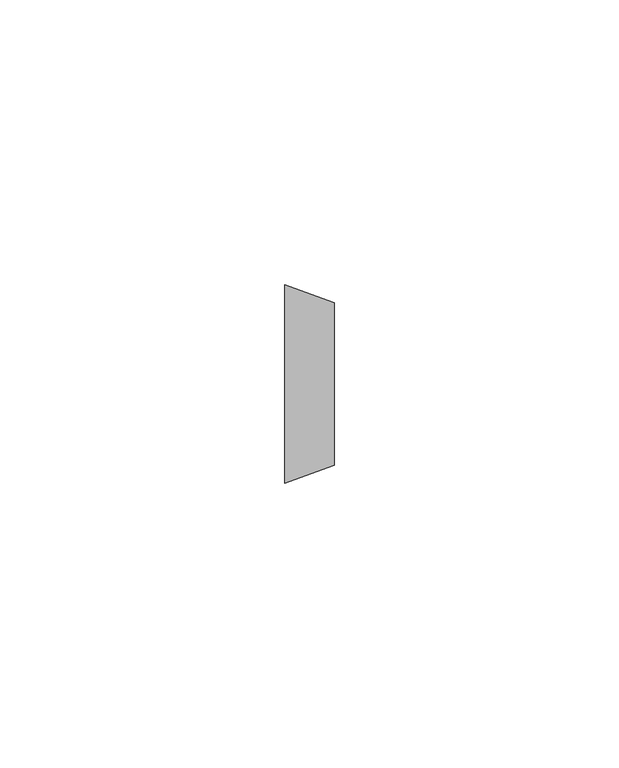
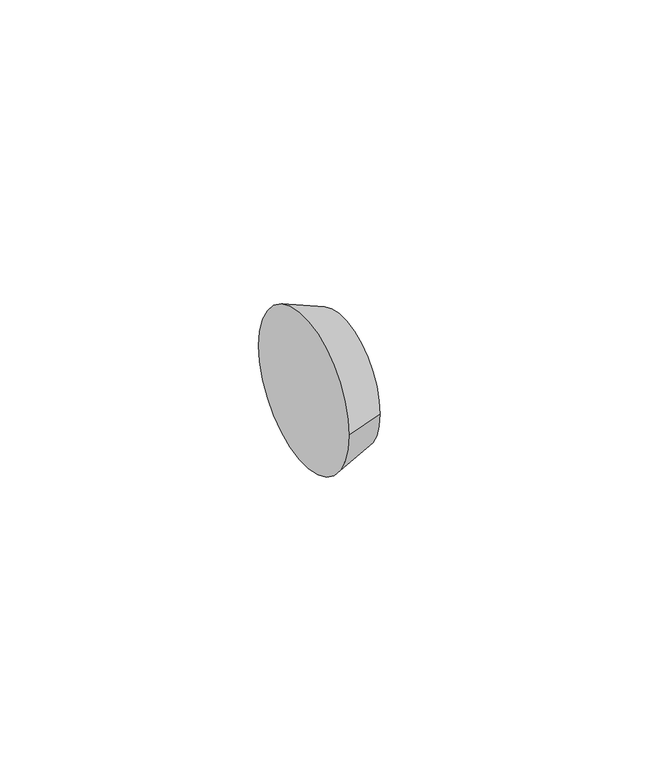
"""IFC4 building model written with IfcOpenShell, lengths in millimetres: pipe fitting geometry, M_Transición - Genérica : Estándar."""

import ifcopenshell
import ifcopenshell.guid

model = None  # the IFC model being written
_history = None  # IfcOwnerHistory: only IFC2X3 demands one
_inside = {}  # id of a spatial element -> (the spatial element, [elements in it])
_under = {}  # id of a project, library or spatial element -> (it, [spatial elements below it])
_declared = {}  # id of a project -> (the project, [libraries it declares])
_typed = {}  # id of a type object -> (the type object, [elements of that type])
_made_of = {}  # id of a material, layer set ... -> (it, [elements and type objects made of it])


def new_model(schema):
    """Start an empty IFC model of exactly this schema.

    Asked for "IFC4X3", IfcOpenShell would pick the latest addendum, in which some entities
    have other attributes; the version numbers below select the first issue.
    IFC2X3 requires an IfcOwnerHistory on every rooted entity: one is made here for all.
    """
    global model, _history
    if schema == "IFC4X3":
        model = ifcopenshell.file(schema_version=(4, 3, 0, 0))
    else:
        model = ifcopenshell.file(schema=schema)
    _inside.clear()
    _under.clear()
    _declared.clear()
    _typed.clear()
    _made_of.clear()
    _history = None
    if model.schema == "IFC2X3":
        org = make("IfcOrganization", Name="unknown")
        user = make(
            "IfcPersonAndOrganization",
            ThePerson=make("IfcPerson", FamilyName="unknown"),
            TheOrganization=org,
        )
        app = make(
            "IfcApplication",
            ApplicationDeveloper=org,
            Version="unknown",
            ApplicationFullName="unknown",
            ApplicationIdentifier="unknown",
        )
        _history = make(
            "IfcOwnerHistory",
            OwningUser=user,
            OwningApplication=app,
            ChangeAction="ADDED",
            CreationDate=0,
        )
    return model


def make(cls, **values):
    """One entity of the class cls with the attributes given. An attribute that is None is left unset."""
    return model.create_entity(
        cls, **{name: value for name, value in values.items() if value is not None}
    )


def rooted(cls, **values):
    """An entity with a GlobalId (a new one), such as an element, a storey or a relation."""
    return make(cls, GlobalId=ifcopenshell.guid.new(), OwnerHistory=_history, **values)


def si_unit(unit_type, name, prefix=None):
    """IfcSIUnit, for example si_unit("LENGTHUNIT", "METRE", prefix="MILLI")."""
    return make("IfcSIUnit", UnitType=unit_type, Prefix=prefix, Name=name)


def assignment(units):
    """IfcUnitAssignment: the units of a project."""
    return None if units is None else make("IfcUnitAssignment", Units=units)


def point(xyz):
    """IfcCartesianPoint."""
    return None if xyz is None else make("IfcCartesianPoint", Coordinates=xyz)


def direction(xyz):
    """IfcDirection."""
    return None if xyz is None else make("IfcDirection", DirectionRatios=xyz)


def frame(location, z_axis=None, x_axis=None):
    """IfcAxis2Placement3D, a coordinate frame: its origin and axes. An axis left out is left unset."""
    return make(
        "IfcAxis2Placement3D",
        Location=point(location),
        Axis=direction(z_axis),
        RefDirection=direction(x_axis),
    )


def origin():
    """The frame at (0, 0, 0) with its axes left unset."""
    return frame((0.0, 0.0, 0.0))


def place(relative_to, where):
    """IfcLocalPlacement: puts the frame where relative to a parent placement (None: the world)."""
    return make(
        "IfcLocalPlacement", PlacementRelTo=relative_to, RelativePlacement=where
    )


def context(
    kind, dimensions, precision=None, world=None, true_north=None, identifier=None
):
    """IfcGeometricRepresentationContext, for example the 3D "Model" context."""
    return make(
        "IfcGeometricRepresentationContext",
        ContextIdentifier=identifier,
        ContextType=kind,
        CoordinateSpaceDimension=dimensions,
        Precision=precision,
        WorldCoordinateSystem=world,
        TrueNorth=true_north,
    )


def project(units=None, contexts=None):
    """IfcProject with its units and contexts."""
    return rooted(
        "IfcProject",
        Name="project",
        RepresentationContexts=contexts,
        UnitsInContext=assignment(units),
    )


def spatial(cls, under=None, at=None, **own):
    """A site, building, storey or space (cls), placed at a placement, below another one or the project."""
    s = rooted(cls, ObjectPlacement=at, **own)
    if under is not None:
        _under.setdefault(under.id(), (under, []))[1].append(s)
    return s


def polyline(points):
    """IfcPolyline through the points."""
    return make("IfcPolyline", Points=[point(p) for p in points])


def circle_curve(where, radius):
    """IfcCircle in the frame where."""
    return make("IfcCircle", Position=where, Radius=radius)


def shape(context_of_items, identifier, shape_type, items):
    """IfcShapeRepresentation: the items that make up one representation, for example the "Body"."""
    return make(
        "IfcShapeRepresentation",
        ContextOfItems=context_of_items,
        RepresentationIdentifier=identifier,
        RepresentationType=shape_type,
        Items=items,
    )


def source(mapping_origin, context_of_items, identifier, shape_type, items):
    """IfcRepresentationMap: a shape defined once, which mapped items show again and again."""
    return make(
        "IfcRepresentationMap",
        MappingOrigin=mapping_origin,
        MappedRepresentation=shape(context_of_items, identifier, shape_type, items),
    )


def transform(
    local_origin,
    x_axis=None,
    y_axis=None,
    z_axis=None,
    scale=None,
    scale2=None,
    scale3=None,
    uniform=True,
):
    """IfcCartesianTransformationOperator3D, or its non-uniform kind. x_axis, y_axis, z_axis: its Axis1, 2, 3."""
    if uniform:
        return make(
            "IfcCartesianTransformationOperator3D",
            Axis1=direction(x_axis),
            Axis2=direction(y_axis),
            LocalOrigin=point(local_origin),
            Scale=scale,
            Axis3=direction(z_axis),
        )
    return make(
        "IfcCartesianTransformationOperator3DnonUniform",
        Axis1=direction(x_axis),
        Axis2=direction(y_axis),
        LocalOrigin=point(local_origin),
        Scale=scale,
        Axis3=direction(z_axis),
        Scale2=scale2,
        Scale3=scale3,
    )


def mapped(mapping_source, mapping_target):
    """IfcMappedItem: shows the shape of a source again, moved by a transform."""
    return make(
        "IfcMappedItem", MappingSource=mapping_source, MappingTarget=mapping_target
    )


def made_of(thing, what):
    """Note that an element or type object is made of a material, layer set ...; save() writes the relation."""
    if what is not None:
        _made_of.setdefault(what.id(), (what, []))[1].append(thing)
    return thing


def element(
    cls,
    number,
    at=None,
    inside=None,
    cuts=None,
    type_object=None,
    material=None,
    context=None,
    identifier="Body",
    shape_type=None,
    held_by="IfcProductDefinitionShape",
    body=None,
    shapes=None,
    **own,
):
    """One element of the class cls, such as IfcWall. Its Tag is "e" and its number.

    at: its placement. inside: the storey or other place that contains it. cuts: it is an
    opening in that element (IfcRelVoidsElement). A single representation is given by context,
    identifier, shape_type and body (its items); several are given by shapes. held_by: the class
    of the entity that holds the representations. save() writes the other relations.
    """
    e = rooted(cls, Tag="e%d" % number, ObjectPlacement=at, **own)
    if body is not None:
        shapes = [shape(context, identifier, shape_type, body)]
    if shapes is not None:
        e.Representation = make(held_by, Representations=shapes)
    if inside is not None:
        _inside.setdefault(inside.id(), (inside, []))[1].append(e)
    if cuts is not None:
        rooted(
            "IfcRelVoidsElement", RelatingBuildingElement=cuts, RelatedOpeningElement=e
        )
    if type_object is not None:
        _typed.setdefault(type_object.id(), (type_object, []))[1].append(e)
    return made_of(e, material)


def aggregate(whole, parts):
    """IfcRelAggregates: a whole, such as a stair, and the parts it consists of."""
    return rooted("IfcRelAggregates", RelatingObject=whole, RelatedObjects=parts)


def save(model, path):
    """Write the relations noted so far, then the file.

    IfcRelAggregates (storeys below a building ...), IfcRelContainedInSpatialStructure (elements
    in a storey), IfcRelDefinesByType, IfcRelAssociatesMaterial and IfcRelDeclares: one each for
    every whole, place, type object, material and project.
    """
    for whole, parts in _under.values():
        aggregate(whole, parts)
    for where, things in _inside.values():
        rooted(
            "IfcRelContainedInSpatialStructure",
            RelatedElements=things,
            RelatingStructure=where,
        )
    for kind, things in _typed.values():
        rooted("IfcRelDefinesByType", RelatedObjects=things, RelatingType=kind)
    for what, things in _made_of.values():
        rooted("IfcRelAssociatesMaterial", RelatedObjects=things, RelatingMaterial=what)
    for by, libraries in _declared.values():
        rooted("IfcRelDeclares", RelatingContext=by, RelatedDefinitions=libraries)
    model.write(path)


def plane_surface(at):
    """IfcPlane: the flat surface through the origin of the frame at, square to its z axis."""
    return make("IfcPlane", Position=at)


def revolved_surface(curve, axis_point, axis_direction):
    """IfcSurfaceOfRevolution: the curve turned about the line through axis_point along axis_direction."""
    return make(
        "IfcSurfaceOfRevolution",
        SweptCurve=make("IfcArbitraryOpenProfileDef", ProfileType="CURVE", Curve=curve),
        AxisPosition=make("IfcAxis1Placement", Location=point(axis_point), Axis=direction(axis_direction)),
    )


def advanced_brep(points, edges, surfaces, faces):
    """IfcAdvancedBrep: a solid bounded by faces that lie on surfaces and meet in shared edges.

    An edge is (start, end): straight between two places in points (the first is 0);
    or (start, end, curve); or (start, end, curve, False) where it runs against its curve.
    A face is (place in surfaces, loops), or (place, loops, False) where it looks against
    its surface's normal. A loop lists edges by number (the first is 1), with a minus sign
    where the edge is run from its end to its start. The first loop is the outer one.
    """
    corners = [point(p) for p in points]
    vertices = [make("IfcVertexPoint", VertexGeometry=c) for c in corners]
    made = []
    for start, end, *more in edges:
        made.append(
            make(
                "IfcEdgeCurve",
                EdgeStart=vertices[start],
                EdgeEnd=vertices[end],
                EdgeGeometry=more[0] if more else make("IfcPolyline", Points=[corners[start], corners[end]]),
                SameSense=more[1] if len(more) > 1 else True,
            )
        )
    hull = []
    for where, loops, *sense in faces:
        bounds = []
        for j, loop in enumerate(loops):
            ring = [make("IfcOrientedEdge", EdgeElement=made[abs(k) - 1], Orientation=k > 0) for k in loop]
            bounds.append(
                make(
                    "IfcFaceOuterBound" if j == 0 else "IfcFaceBound",
                    Bound=make("IfcEdgeLoop", EdgeList=ring),
                    Orientation=True,
                )
            )
        hull.append(make("IfcAdvancedFace", Bounds=bounds, FaceSurface=surfaces[where], SameSense=sense[0] if sense else True))
    return make("IfcAdvancedBrep", Outer=make("IfcClosedShell", CfsFaces=hull))


def pipe_fitting_7ca1ba8e(model_context):
    return source(origin(), model_context, "Body", "AdvancedBrep", [
        advanced_brep(
        [(8.73125, -14.2875, 0.0), (8.73125, 14.2875, 0.0), (0.0, -17.4625, 0.0), (0.0, 17.4625, 0.0)],
        [
            (0, 1, circle_curve(frame((8.73125, 0.0, 0.0), z_axis=(1.0, 0.0, 0.0), x_axis=(0.0, -1.0, 0.0)), 14.2875)),
            (1, 0, circle_curve(frame((8.73125, 0.0, 0.0), z_axis=(1.0, 0.0, 0.0), x_axis=(0.0, 1.0, 0.0)), 14.2875)),
            (2, 3, circle_curve(frame((0.0, 0.0, 0.0), z_axis=(-1.0, 0.0, 0.0), x_axis=(0.0, 1.0, 0.0)), 17.4625)),
            (3, 2, circle_curve(frame((0.0, 0.0, 0.0), z_axis=(-1.0, 0.0, 0.0), x_axis=(0.0, -1.0, 0.0)), 17.4625)),
            (3, 1),
            (0, 2),
        ],
        [
            plane_surface(frame((8.73125, 0.0, 0.0), z_axis=(1.0, 0.0, 0.0), x_axis=(0.0, 0.0, -1.0))),
            plane_surface(frame((0.0, 0.0, 0.0), z_axis=(-1.0, 0.0, 0.0), x_axis=(0.0, 0.0, -1.0))),
            revolved_surface(polyline([(8.731249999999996, -14.2875, 0.0), (0.0, -17.4625, 0.0)]), (48.021875, 0.0, 0.0), (-1.0, 0.0, 0.0)),
            revolved_surface(polyline([(8.731249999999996, 14.2875, 0.0), (0.0, 17.4625, 0.0)]), (48.021875, 0.0, 0.0), (-1.0, 0.0, 0.0)),
        ],
        [
            (0, [[1, 2]]),
            (1, [[3, 4]]),
            (2, [[-4, 5, -1, 6]]),
            (3, [[-3, -6, -2, -5]]),
        ],
    ),
    ])


if __name__ == "__main__":
    model = new_model("IFC4")
    model_context = context("Model", 3, world=origin())
    ifc_project = project(units=[si_unit("LENGTHUNIT", "METRE", prefix="MILLI")], contexts=[model_context])
    site = spatial("IfcSite", under=ifc_project)
    building = spatial("IfcBuilding", under=site)
    placement = place(None, origin())
    pipe_fitting_shape = pipe_fitting_7ca1ba8e(model_context)
    element("IfcPipeFitting", 1, ObjectType="M_Transición - Genérica : Estándar", at=placement, inside=building, context=model_context, shape_type="MappedRepresentation", body=[
        mapped(pipe_fitting_shape, transform((0.0, 0.0, 0.0), x_axis=(1.0, 0.0, 0.0), y_axis=(0.0, 1.0, 0.0), z_axis=(0.0, 0.0, 1.0))),
    ])
    save(model, "model.ifc")
